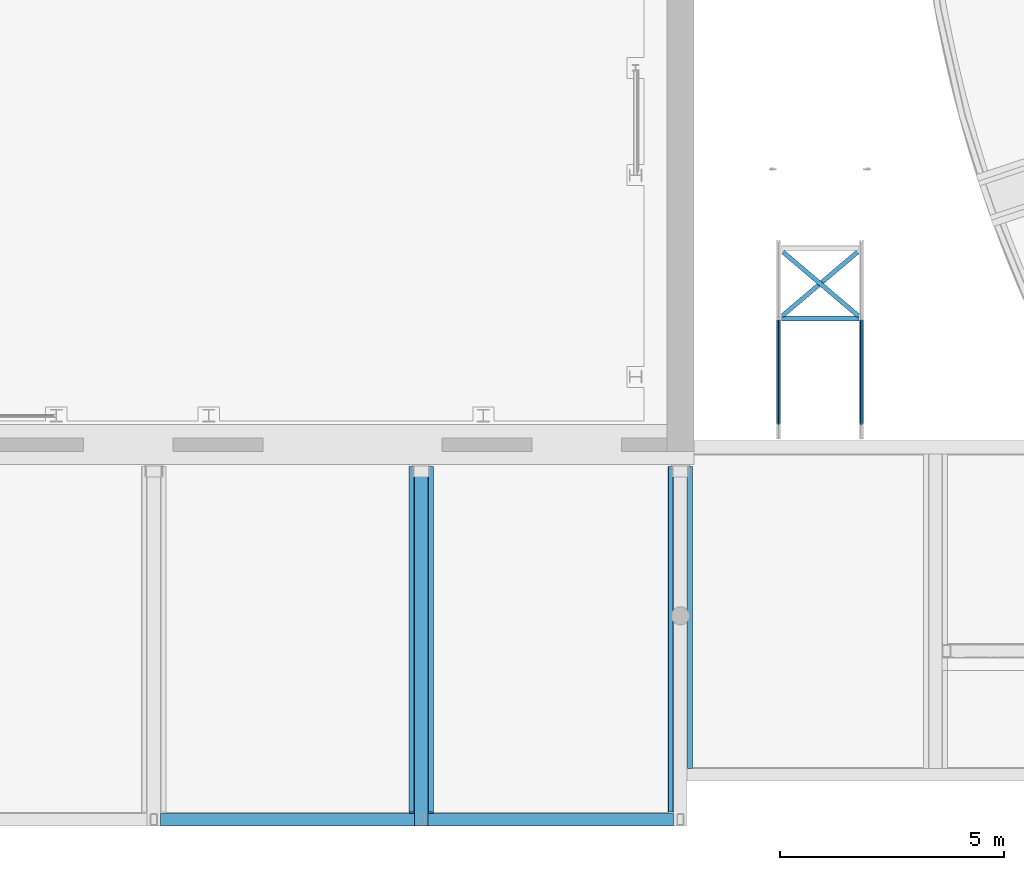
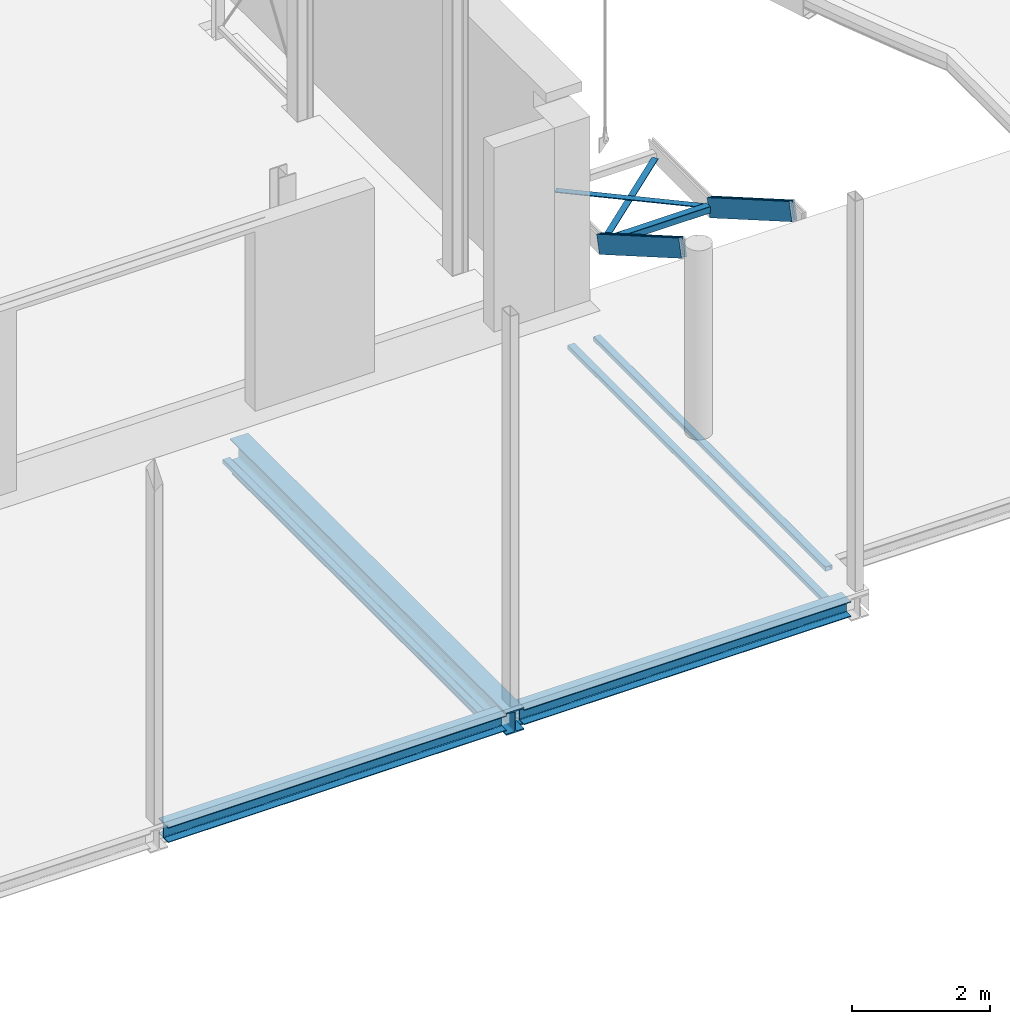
# One storey, part 12 of 37: 12 beams.
"""IFC2X3 building model written with IfcOpenShell, lengths in millimetres."""

from ifc_helpers import new_model, entity, si_unit, converted_unit, derived_unit, direction, frame, frame_2d, origin, place, context, subcontext, project, spatial, polyline, circle_curve, parameter, trimmed, segment, composite_curve, rectangle, i_section, outline, extrude, clip, halfspace, source, transform, mapped, material, material_list, type_object, type_shapes, element, save


model = new_model("IFC2X3")

# Units and contexts
model_context = context("Model", 3, precision=0.01, world=origin(), true_north=direction((6.12303176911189e-17, 1.0)))
body_context = subcontext(model_context, "Body", "Model", "MODEL_VIEW")
ifc_project = project(units=[si_unit("LENGTHUNIT", "METRE", prefix="MILLI"), si_unit("AREAUNIT", "SQUARE_METRE", prefix="MILLI"), si_unit("VOLUMEUNIT", "CUBIC_METRE"), converted_unit("PLANEANGLEUNIT", "DEGREE", entity("IfcRatioMeasure", 0.0174532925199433), si_unit("PLANEANGLEUNIT", "RADIAN"), dimensions=[0, 0, 0, 0, 0, 0, 0]), si_unit("MASSUNIT", "GRAM", prefix="KILO"), derived_unit("MASSDENSITYUNIT", [(si_unit("MASSUNIT", "GRAM", prefix="KILO"), 1), (si_unit("LENGTHUNIT", "METRE"), -3)]), derived_unit("MOMENTOFINERTIAUNIT", [(si_unit("LENGTHUNIT", "METRE"), 4)]), si_unit("TIMEUNIT", "SECOND"), si_unit("FREQUENCYUNIT", "HERTZ"), si_unit("THERMODYNAMICTEMPERATUREUNIT", "DEGREE_CELSIUS"), derived_unit("THERMALTRANSMITTANCEUNIT", [(si_unit("MASSUNIT", "GRAM", prefix="KILO"), 1), (si_unit("THERMODYNAMICTEMPERATUREUNIT", "KELVIN"), -1), (si_unit("TIMEUNIT", "SECOND"), -3)]), derived_unit("VOLUMETRICFLOWRATEUNIT", [(si_unit("LENGTHUNIT", "METRE"), 3), (si_unit("TIMEUNIT", "SECOND"), -1)]), si_unit("ELECTRICCURRENTUNIT", "AMPERE"), si_unit("ELECTRICVOLTAGEUNIT", "VOLT"), si_unit("POWERUNIT", "WATT"), si_unit("FORCEUNIT", "NEWTON", prefix="KILO"), si_unit("ILLUMINANCEUNIT", "LUX"), si_unit("LUMINOUSFLUXUNIT", "LUMEN"), si_unit("LUMINOUSINTENSITYUNIT", "CANDELA"), derived_unit("USERDEFINED", [(si_unit("MASSUNIT", "GRAM", prefix="KILO"), -1), (si_unit("LENGTHUNIT", "METRE"), -2), (si_unit("TIMEUNIT", "SECOND"), 3), (si_unit("LUMINOUSFLUXUNIT", "LUMEN"), 1)]), derived_unit("LINEARVELOCITYUNIT", [(si_unit("LENGTHUNIT", "METRE"), 1), (si_unit("TIMEUNIT", "SECOND"), -1)]), si_unit("PRESSUREUNIT", "PASCAL"), derived_unit("USERDEFINED", [(si_unit("LENGTHUNIT", "METRE"), -2), (si_unit("MASSUNIT", "GRAM", prefix="KILO"), 1), (si_unit("TIMEUNIT", "SECOND"), -2)]), derived_unit("LINEARFORCEUNIT", [(si_unit("MASSUNIT", "GRAM", prefix="KILO"), 1), (si_unit("LENGTHUNIT", "METRE"), 1), (si_unit("TIMEUNIT", "SECOND"), -2), (si_unit("LENGTHUNIT", "METRE"), -1)]), derived_unit("PLANARFORCEUNIT", [(si_unit("MASSUNIT", "GRAM", prefix="KILO"), 1), (si_unit("LENGTHUNIT", "METRE"), 1), (si_unit("TIMEUNIT", "SECOND"), -2), (si_unit("LENGTHUNIT", "METRE"), -2)])], contexts=[model_context])

# Site, building, storey
site_placement = place(None, origin())
site = spatial("IfcSite", under=ifc_project, at=site_placement, Name="Theater aan de Parade", CompositionType="ELEMENT")
building_placement = place(site_placement, origin())
building = spatial("IfcBuilding", under=site, at=building_placement, Name="Theater aan de Parade", CompositionType="ELEMENT")
storey_placement = place(building_placement, frame((0.0, 0.0, 5020.0)))
storey = spatial("IfcBuildingStorey", under=building, at=storey_placement, Name="01 eerste verdieping", CompositionType="ELEMENT", Elevation=5020.0)

# Beams
ifc_material_1 = material(Name="00_PBT_MAT_staal_S355")
ifc_material_2 = material(Name="00_PBT_MAT_Lucht")
ifc_material_list = material_list([ifc_material_2, ifc_material_1])
beam_type_1 = type_object("IfcBeamType", Name="28_PBT_SF_staal_H-profiel_met_onderplaat (void):S355_HE400B + onderplaat d=25", PredefinedType="BEAM", material=ifc_material_list)
shared_shape_1 = source(origin(), body_context, "Body", "SweptSolid", [
    extrude(i_section(OverallWidth=300.000000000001, OverallDepth=400.0, WebThickness=13.5000000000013, FlangeThickness=24.0, FilletRadius=26.9999999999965, at=frame_2d((2.1600499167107e-12, 0.0), x_axis=(1.0, 0.0))), frame((31375.0, 9057.0, 4675.0), z_axis=(0.0, 1.0, 0.0), x_axis=(-1.0, 0.0, 0.0)), (0.0, 0.0, 1.0), 8014.30844689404),
    extrude(rectangle(XDim=24.9999999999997, YDim=539.999999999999, at=frame_2d((0.0, 0.0), x_axis=(0.0, 1.0))), frame((31375.0, 9207.0, 4462.5), z_axis=(0.0, 1.0, 0.0), x_axis=(-1.0, 0.0, 0.0)), (0.0, 0.0, 1.0), 7604.30844689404),
])
type_shapes(beam_type_1, [shared_shape_1])
beam_1_placement = place(storey_placement, frame((0.0, 0.0, -5020.0)))
element("IfcBeam", 1, at=beam_1_placement, inside=storey, type_object=beam_type_1, material=ifc_material_1, Name="28_PBT_SF_staal_H-profiel_met_onderplaat (void):S355_HE400B + onderplaat d=25", ObjectType="28_PBT_SF_staal_H-profiel_met_onderplaat (void):S355_HE400B + onderplaat d=25", context=body_context, shape_type="MappedRepresentation", body=[
    mapped(shared_shape_1, transform((0.0, 0.0, 0.0), scale=1.0)),
])
beam_type_2 = type_object("IfcBeamType", Name="28_PBT_SF_staal_H-profiel (void):S355_HE280A", PredefinedType="NOTDEFINED")
beam_2_placement = place(storey_placement, frame((25560.0, 9197.0, 0.0)))
element("IfcBeam", 2, at=beam_2_placement, inside=storey, type_object=beam_type_2, material=ifc_material_1, Name="28_PBT_SF_staal_H-profiel (void):S355_HE280A", ObjectType="28_PBT_SF_staal_H-profiel (void):S355_HE280A", context=body_context, shape_type="SweptSolid", body=[
    extrude(i_section(OverallWidth=279.999999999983, OverallDepth=270.0, WebThickness=8.00000000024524, FlangeThickness=12.9999999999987, FilletRadius=24.0000000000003, at=frame_2d((-2.70006239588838e-13, 5.40012479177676e-13), x_axis=(0.0, 1.0))), frame((0.0, 0.0, -325.0), z_axis=(1.0, 0.0, 0.0), x_axis=(0.0, 0.0, -1.0)), (0.0, 0.0, 1.0), 5665.00000000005),
])
beam_3_placement = place(storey_placement, frame((37003.8581300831, 9197.0, 0.0), z_axis=(0.0, 0.0, 1.0), x_axis=(-1.0, 0.0, 0.0)))
element("IfcBeam", 3, at=beam_3_placement, inside=storey, type_object=beam_type_2, material=ifc_material_1, Name="28_PBT_SF_staal_H-profiel (void):S355_HE280A", ObjectType="28_PBT_SF_staal_H-profiel (void):S355_HE280A", context=body_context, shape_type="SweptSolid", body=[
    extrude(outline(composite_curve([segment(polyline([(122.0, -140.0), (135.0, -140.0)]), True, "CONTINUOUS"), segment(polyline([(135.0, -140.0), (135.0, 140.0)]), True, "CONTINUOUS"), segment(polyline([(135.0, 140.0), (122.0, 140.0)]), True, "CONTINUOUS"), segment(polyline([(122.0, 140.0), (122.0, 28.0)]), True, "CONTINUOUS"), segment(trimmed(circle_curve(frame_2d((98.0, 28.0), x_axis=(1.0, 0.0)), 23.9999999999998), [parameter(270.0)], [parameter(0.0)], True, "PARAMETER"), False, "CONTINUOUS"), segment(polyline([(98.0, 4.0), (-98.0, 4.0)]), True, "CONTINUOUS"), segment(trimmed(circle_curve(frame_2d((-98.0, 28.0), x_axis=(0.0, -1.0)), 24.0000000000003), [parameter(270.000000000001)], [parameter(0.0)], True, "PARAMETER"), False, "CONTINUOUS"), segment(polyline([(-122.0, 28.0), (-122.0, 140.0)]), True, "CONTINUOUS"), segment(polyline([(-122.0, 140.0), (-135.0, 140.0)]), True, "CONTINUOUS"), segment(polyline([(-135.0, 140.0), (-135.0, -140.0)]), True, "CONTINUOUS"), segment(polyline([(-135.0, -140.0), (-122.0, -140.0)]), True, "CONTINUOUS"), segment(polyline([(-122.0, -140.0), (-122.0, -28.0)]), True, "CONTINUOUS"), segment(trimmed(circle_curve(frame_2d((-98.0, -28.0), x_axis=(-1.0, 0.0)), 23.9999999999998), [parameter(269.999999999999)], [parameter(0.0)], True, "PARAMETER"), False, "CONTINUOUS"), segment(polyline([(-98.0, -4.0), (98.0, -4.0)]), True, "CONTINUOUS"), segment(trimmed(circle_curve(frame_2d((98.0, -28.0), x_axis=(0.0, 1.0)), 24.0000000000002), [parameter(270.000000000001)], [parameter(0.0)], True, "PARAMETER"), False, "CONTINUOUS"), segment(polyline([(122.0, -28.0), (122.0, -140.0)]), True, "CONTINUOUS")], self_intersect=False)), frame((0.0, 0.0, -325.0), z_axis=(1.0, 0.0, 0.0), x_axis=(0.0, 0.0, -1.0)), (0.0, 0.0, 1.0), 5478.85813008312),
])
ifc_material_3 = material(Name="00_PBT_MAT_staal_S235")
beam_type_3 = type_object("IfcBeamType", Name="28_PBT_SF_staal_koker:S235_K80x120x6.3", PredefinedType="NOTDEFINED")
beam_4_placement = place(storey_placement, frame((31100.0, 17071.3084468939, 0.0), z_axis=(0.0, 0.0, 1.0), x_axis=(0.0, -1.0, 0.0)))
element("IfcBeam", 4, at=beam_4_placement, inside=storey, type_object=beam_type_3, material=ifc_material_3, Name="28_PBT_SF_staal_koker:S235_K80x120x6.3", ObjectType="28_PBT_SF_staal_koker:S235_K80x120x6.3", context=body_context, shape_type="SweptSolid", body=[
    extrude(outline(composite_curve([segment(polyline([(-30.5500000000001, -60.0), (30.5499999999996, -60.0)]), True, "CONTINUOUS"), segment(trimmed(circle_curve(frame_2d((30.5499999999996, -50.5499999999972), x_axis=(0.0, 1.0)), 9.45), [parameter(180.0)], [parameter(270.0)], True, "PARAMETER"), True, "CONTINUOUS"), segment(polyline([(40.0, -50.5500000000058), (40.0, 50.5499999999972)]), True, "CONTINUOUS"), segment(trimmed(circle_curve(frame_2d((30.5499999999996, 50.5500000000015), x_axis=(0.0, 1.0)), 9.45), [parameter(270.0)], [parameter(360.0)], True, "PARAMETER"), True, "CONTINUOUS"), segment(polyline([(30.5499999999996, 60.0), (-30.5500000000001, 60.0)]), True, "CONTINUOUS"), segment(trimmed(circle_curve(frame_2d((-30.5500000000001, 50.5500000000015), x_axis=(0.0, 1.0)), 9.45), [parameter(0.0)], [parameter(90.0000000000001)], True, "PARAMETER"), True, "CONTINUOUS"), segment(polyline([(-40.0, 50.5499999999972), (-40.0, -50.5500000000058)]), True, "CONTINUOUS"), segment(trimmed(circle_curve(frame_2d((-30.5500000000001, -50.5499999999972), x_axis=(0.0, 1.0)), 9.45), [parameter(90.0)], [parameter(180.0)], True, "PARAMETER"), True, "CONTINUOUS")], self_intersect=False), holes=[composite_curve([segment(polyline([(33.6999999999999, 47.3999999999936), (33.6999999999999, -47.4000000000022)]), True, "CONTINUOUS"), segment(trimmed(circle_curve(frame_2d((27.3999999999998, -47.3999999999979), x_axis=(0.0, 1.0)), 6.3), [parameter(180.0)], [parameter(270.0)], True, "PARAMETER"), False, "CONTINUOUS"), segment(polyline([(27.3999999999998, -53.7000000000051), (-27.4000000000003, -53.7000000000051)]), True, "CONTINUOUS"), segment(trimmed(circle_curve(frame_2d((-27.4000000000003, -47.3999999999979), x_axis=(0.0, 1.0)), 6.3), [parameter(90.0)], [parameter(180.0)], True, "PARAMETER"), False, "CONTINUOUS"), segment(polyline([(-33.7000000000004, -47.4000000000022), (-33.7000000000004, 47.3999999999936)]), True, "CONTINUOUS"), segment(trimmed(circle_curve(frame_2d((-27.4000000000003, 47.4000000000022), x_axis=(0.0, 1.0)), 6.3), [parameter(4.07110999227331e-13)], [parameter(90.0000000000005)], True, "PARAMETER"), False, "CONTINUOUS"), segment(polyline([(-27.4000000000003, 53.6999999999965), (27.3999999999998, 53.6999999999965)]), True, "CONTINUOUS"), segment(trimmed(circle_curve(frame_2d((27.3999999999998, 47.4000000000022), x_axis=(0.0, 1.0)), 6.3), [parameter(270.0)], [parameter(360.0)], True, "PARAMETER"), False, "CONTINUOUS")], self_intersect=False)]), frame((0.0, 60.0, -505.0), z_axis=(1.0, 0.0, 0.0), x_axis=(0.0, 0.0, 1.0)), (0.0, 0.0, 1.0), 7711.30844689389),
])
beam_5_placement = place(storey_placement, frame((31650.0, 17071.3084468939, 0.0), z_axis=(0.0, 0.0, 1.0), x_axis=(0.0, -1.0, 0.0)))
element("IfcBeam", 5, at=beam_5_placement, inside=storey, type_object=beam_type_3, material=ifc_material_3, Name="28_PBT_SF_staal_koker:S235_K80x120x6.3", ObjectType="28_PBT_SF_staal_koker:S235_K80x120x6.3", context=body_context, shape_type="SweptSolid", body=[
    extrude(outline(composite_curve([segment(trimmed(circle_curve(frame_2d((-50.5499999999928, -30.5500000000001), x_axis=(1.0, 0.0)), 9.45), [parameter(180.0)], [parameter(270.0)], True, "PARAMETER"), True, "CONTINUOUS"), segment(polyline([(-50.5499999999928, -40.0), (50.5500000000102, -40.0)]), True, "CONTINUOUS"), segment(trimmed(circle_curve(frame_2d((50.5500000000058, -30.5500000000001), x_axis=(1.0, 0.0)), 9.45), [parameter(270.0)], [parameter(0.0)], True, "PARAMETER"), True, "CONTINUOUS"), segment(polyline([(60.0, -30.5500000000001), (60.0, 30.5499999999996)]), True, "CONTINUOUS"), segment(trimmed(circle_curve(frame_2d((50.5500000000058, 30.5499999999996), x_axis=(1.0, 0.0)), 9.45), [parameter(3.56222124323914e-13)], [parameter(90.0000000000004)], True, "PARAMETER"), True, "CONTINUOUS"), segment(polyline([(50.5500000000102, 40.0), (-50.5499999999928, 40.0)]), True, "CONTINUOUS"), segment(trimmed(circle_curve(frame_2d((-50.5499999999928, 30.5499999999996), x_axis=(1.0, 0.0)), 9.45), [parameter(90.0000000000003)], [parameter(180.0)], True, "PARAMETER"), True, "CONTINUOUS"), segment(polyline([(-60.0, 30.5499999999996), (-60.0, -30.5500000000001)]), True, "CONTINUOUS")], self_intersect=False), holes=[composite_curve([segment(trimmed(circle_curve(frame_2d((47.4000000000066, 27.3999999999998), x_axis=(1.0, 0.0)), 6.3), [parameter(5.08888749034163e-14)], [parameter(90.0000000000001)], True, "PARAMETER"), False, "CONTINUOUS"), segment(polyline([(53.7000000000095, 27.3999999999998), (53.7000000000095, -27.4000000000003)]), True, "CONTINUOUS"), segment(trimmed(circle_curve(frame_2d((47.4000000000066, -27.4000000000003), x_axis=(1.0, 0.0)), 6.3), [parameter(269.999999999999)], [parameter(360.0)], True, "PARAMETER"), False, "CONTINUOUS"), segment(polyline([(47.4000000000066, -33.7000000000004), (-47.3999999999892, -33.7000000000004)]), True, "CONTINUOUS"), segment(trimmed(circle_curve(frame_2d((-47.3999999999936, -27.4000000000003), x_axis=(1.0, 0.0)), 6.3), [parameter(180.0)], [parameter(270.0)], True, "PARAMETER"), False, "CONTINUOUS"), segment(polyline([(-53.6999999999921, -27.4000000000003), (-53.6999999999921, 27.3999999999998)]), True, "CONTINUOUS"), segment(trimmed(circle_curve(frame_2d((-47.3999999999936, 27.3999999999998), x_axis=(1.0, 0.0)), 6.3), [parameter(89.9999999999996)], [parameter(180.0)], True, "PARAMETER"), False, "CONTINUOUS"), segment(polyline([(-47.3999999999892, 33.6999999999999), (47.4000000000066, 33.6999999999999)]), True, "CONTINUOUS")], self_intersect=False)]), frame((0.0, -60.0, -505.0), z_axis=(1.0, 0.0, 0.0), x_axis=(0.0, 1.0, 0.0)), (0.0, 0.0, 1.0), 7711.30844689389),
])
beam_6_placement = place(storey_placement, frame((36878.8581300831, 17071.3084468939, 0.0), z_axis=(0.0, 0.0, 1.0), x_axis=(0.0, -1.0, 0.0)))
element("IfcBeam", 6, at=beam_6_placement, inside=storey, type_object=beam_type_3, material=ifc_material_3, Name="28_PBT_SF_staal_koker:S235_K80x120x6.3", ObjectType="28_PBT_SF_staal_koker:S235_K80x120x6.3", context=body_context, shape_type="SweptSolid", body=[
    extrude(outline(composite_curve([segment(polyline([(-30.5500000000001, -60.0), (30.5499999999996, -60.0)]), True, "CONTINUOUS"), segment(trimmed(circle_curve(frame_2d((30.5499999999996, -50.5500000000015), x_axis=(0.0, 1.0)), 9.45), [parameter(180.0)], [parameter(270.0)], True, "PARAMETER"), True, "CONTINUOUS"), segment(polyline([(40.0, -50.5500000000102), (40.0, 50.5499999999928)]), True, "CONTINUOUS"), segment(trimmed(circle_curve(frame_2d((30.5499999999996, 50.5499999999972), x_axis=(0.0, 1.0)), 9.45), [parameter(270.0)], [parameter(360.0)], True, "PARAMETER"), True, "CONTINUOUS"), segment(polyline([(30.5499999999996, 60.0), (-30.5500000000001, 60.0)]), True, "CONTINUOUS"), segment(trimmed(circle_curve(frame_2d((-30.5500000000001, 50.5499999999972), x_axis=(0.0, 1.0)), 9.45), [parameter(0.0)], [parameter(90.0000000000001)], True, "PARAMETER"), True, "CONTINUOUS"), segment(polyline([(-40.0, 50.5499999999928), (-40.0, -50.5500000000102)]), True, "CONTINUOUS"), segment(trimmed(circle_curve(frame_2d((-30.5500000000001, -50.5500000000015), x_axis=(0.0, 1.0)), 9.45), [parameter(90.0)], [parameter(180.0)], True, "PARAMETER"), True, "CONTINUOUS")], self_intersect=False), holes=[composite_curve([segment(polyline([(33.6999999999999, 47.3999999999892), (33.6999999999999, -47.4000000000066)]), True, "CONTINUOUS"), segment(trimmed(circle_curve(frame_2d((27.3999999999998, -47.4000000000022), x_axis=(0.0, 1.0)), 6.3), [parameter(180.0)], [parameter(270.0)], True, "PARAMETER"), False, "CONTINUOUS"), segment(polyline([(27.3999999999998, -53.7000000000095), (-27.4000000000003, -53.7000000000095)]), True, "CONTINUOUS"), segment(trimmed(circle_curve(frame_2d((-27.4000000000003, -47.4000000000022), x_axis=(0.0, 1.0)), 6.3), [parameter(90.0)], [parameter(180.0)], True, "PARAMETER"), False, "CONTINUOUS"), segment(polyline([(-33.7000000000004, -47.4000000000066), (-33.7000000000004, 47.3999999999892)]), True, "CONTINUOUS"), segment(trimmed(circle_curve(frame_2d((-27.4000000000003, 47.3999999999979), x_axis=(0.0, 1.0)), 6.3), [parameter(4.07110999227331e-13)], [parameter(90.0000000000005)], True, "PARAMETER"), False, "CONTINUOUS"), segment(polyline([(-27.4000000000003, 53.6999999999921), (27.3999999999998, 53.6999999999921)]), True, "CONTINUOUS"), segment(trimmed(circle_curve(frame_2d((27.3999999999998, 47.3999999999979), x_axis=(0.0, 1.0)), 6.3), [parameter(270.0)], [parameter(360.0)], True, "PARAMETER"), False, "CONTINUOUS")], self_intersect=False)]), frame((0.0, 60.0, -505.0), z_axis=(1.0, 0.0, 0.0), x_axis=(0.0, 0.0, 1.0)), (0.0, 0.0, 1.0), 7711.30844689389),
])
beam_7_placement = place(storey_placement, frame((37428.8581300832, 17071.3084468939, 0.0), z_axis=(0.0, 0.0, 1.0), x_axis=(0.0, -1.0, 0.0)))
element("IfcBeam", 7, at=beam_7_placement, inside=storey, type_object=beam_type_3, material=ifc_material_3, Name="28_PBT_SF_staal_koker:S235_K80x120x6.3", ObjectType="28_PBT_SF_staal_koker:S235_K80x120x6.3", context=body_context, shape_type="SweptSolid", body=[
    extrude(outline(composite_curve([segment(trimmed(circle_curve(frame_2d((-50.5499999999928, -30.5500000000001), x_axis=(1.0, 0.0)), 9.45), [parameter(180.0)], [parameter(270.0)], True, "PARAMETER"), True, "CONTINUOUS"), segment(polyline([(-50.5499999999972, -40.0), (50.5500000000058, -40.0)]), True, "CONTINUOUS"), segment(trimmed(circle_curve(frame_2d((50.5500000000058, -30.5500000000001), x_axis=(1.0, 0.0)), 9.45), [parameter(270.0)], [parameter(0.0)], True, "PARAMETER"), True, "CONTINUOUS"), segment(polyline([(60.0, -30.5500000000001), (60.0, 30.5499999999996)]), True, "CONTINUOUS"), segment(trimmed(circle_curve(frame_2d((50.5500000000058, 30.5499999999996), x_axis=(1.0, 0.0)), 9.45), [parameter(3.56222124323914e-13)], [parameter(90.0000000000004)], True, "PARAMETER"), True, "CONTINUOUS"), segment(polyline([(50.5500000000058, 40.0), (-50.5499999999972, 40.0)]), True, "CONTINUOUS"), segment(trimmed(circle_curve(frame_2d((-50.5499999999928, 30.5499999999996), x_axis=(1.0, 0.0)), 9.45), [parameter(90.0000000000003)], [parameter(180.0)], True, "PARAMETER"), True, "CONTINUOUS"), segment(polyline([(-60.0, 30.5499999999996), (-60.0, -30.5500000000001)]), True, "CONTINUOUS")], self_intersect=False), holes=[composite_curve([segment(trimmed(circle_curve(frame_2d((47.4000000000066, 27.3999999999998), x_axis=(1.0, 0.0)), 6.3), [parameter(5.08888749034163e-14)], [parameter(90.0000000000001)], True, "PARAMETER"), False, "CONTINUOUS"), segment(polyline([(53.7000000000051, 27.3999999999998), (53.7000000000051, -27.4000000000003)]), True, "CONTINUOUS"), segment(trimmed(circle_curve(frame_2d((47.4000000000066, -27.4000000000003), x_axis=(1.0, 0.0)), 6.3), [parameter(269.999999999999)], [parameter(360.0)], True, "PARAMETER"), False, "CONTINUOUS"), segment(polyline([(47.4000000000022, -33.7000000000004), (-47.3999999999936, -33.7000000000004)]), True, "CONTINUOUS"), segment(trimmed(circle_curve(frame_2d((-47.3999999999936, -27.4000000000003), x_axis=(1.0, 0.0)), 6.3), [parameter(180.0)], [parameter(270.0)], True, "PARAMETER"), False, "CONTINUOUS"), segment(polyline([(-53.6999999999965, -27.4000000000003), (-53.6999999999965, 27.3999999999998)]), True, "CONTINUOUS"), segment(trimmed(circle_curve(frame_2d((-47.3999999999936, 27.3999999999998), x_axis=(1.0, 0.0)), 6.3), [parameter(89.9999999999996)], [parameter(180.0)], True, "PARAMETER"), False, "CONTINUOUS"), segment(polyline([(-47.3999999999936, 33.6999999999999), (47.4000000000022, 33.6999999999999)]), True, "CONTINUOUS")], self_intersect=False)]), frame((0.0, -60.0, -505.0), z_axis=(1.0, 0.0, 0.0), x_axis=(0.0, 1.0, 0.0)), (0.0, 0.0, 1.0), 6734.30844689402),
])
beam_type_4 = type_object("IfcBeamType", Name="28_PBT_SF_staal_trapboom_glas:trapboom", PredefinedType="BEAM", material=ifc_material_1)
shared_shape_2 = source(origin(), body_context, "Body", "Clipping", [
    clip(clip(extrude(rectangle(XDim=20.0000000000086, YDim=30.0000000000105, at=frame_2d((-3.19211324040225e-12, 8.66329230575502e-12), x_axis=(1.0, 0.0))), frame((41191.8281932, 20344.8666221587, 3363.66152684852), z_axis=(0.0, -0.866152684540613, 0.499779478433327), x_axis=(0.0, -0.499779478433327, -0.866152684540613)), (0.0, 0.0, 1.0), 2756.56965873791), halfspace(frame((39781.7063235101, 21680.2102783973, 8359.77091390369), z_axis=(0.0, 0.965958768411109, -0.258696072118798), x_axis=(0.0, 0.258696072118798, 0.965958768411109)), False)), halfspace(frame((46565.4133776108, 17919.4041672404, 4590.0), z_axis=(0.0, -0.965958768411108, 0.258696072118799), x_axis=(-1.0, 0.0, 0.0)), False)),
    clip(clip(extrude(rectangle(XDim=310.000000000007, YDim=29.9999999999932, at=frame_2d((-1.79056769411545e-12, 1.29940502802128e-11), x_axis=(1.0, 0.0))), frame((41221.8281932, 20411.9783915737, 3469.25366610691), z_axis=(0.0, -0.866152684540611, 0.499779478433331), x_axis=(0.0, -0.499779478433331, -0.866152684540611)), (0.0, 0.0, 1.0), 2834.23535562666), halfspace(frame((39781.7063235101, 21680.2102783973, 8359.77091390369), z_axis=(0.0, 0.965958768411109, -0.258696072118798), x_axis=(0.0, 0.258696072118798, 0.965958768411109)), False)), halfspace(frame((46565.4133776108, 17919.4041672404, 4590.0), z_axis=(0.0, -0.965958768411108, 0.258696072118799), x_axis=(-1.0, 0.0, 0.0)), False)),
    clip(clip(extrude(rectangle(XDim=20.0000000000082, YDim=30.0000000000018, at=frame_2d((-3.89555054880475e-12, 8.66329230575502e-12), x_axis=(1.0, 0.0))), frame((41191.8281932, 20385.0385343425, 3513.66152684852), z_axis=(0.0, -0.866152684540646, 0.49977947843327), x_axis=(0.0, -0.49977947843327, -0.866152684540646)), (0.0, 0.0, 1.0), 2756.56965873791), halfspace(frame((39781.7063235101, 21680.2102783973, 8359.77091390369), z_axis=(0.0, 0.965958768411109, -0.258696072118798), x_axis=(0.0, 0.258696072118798, 0.965958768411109)), False)), halfspace(frame((46565.4133776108, 17919.4041672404, 4590.0), z_axis=(0.0, -0.965958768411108, 0.258696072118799), x_axis=(-1.0, 0.0, 0.0)), False)),
    clip(clip(extrude(rectangle(XDim=310.000000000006, YDim=29.9999999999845, at=frame_2d((-3.43902684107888e-12, 1.29940502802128e-11), x_axis=(1.0, 0.0))), frame((41161.8281932, 20411.9783915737, 3469.25366610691), z_axis=(0.0, -0.866152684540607, 0.499779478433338), x_axis=(0.0, -0.499779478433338, -0.866152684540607)), (0.0, 0.0, 1.0), 2834.23535562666), halfspace(frame((39781.7063235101, 21680.2102783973, 8359.77091390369), z_axis=(0.0, 0.965958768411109, -0.258696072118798), x_axis=(0.0, 0.258696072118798, 0.965958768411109)), False)), halfspace(frame((46565.4133776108, 17919.4041672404, 4590.0), z_axis=(0.0, -0.965958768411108, 0.258696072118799), x_axis=(-1.0, 0.0, 0.0)), False)),
])
type_shapes(beam_type_4, [shared_shape_2])
beam_8_placement = place(storey_placement, frame((0.0, 0.0, -5020.0)))
element("IfcBeam", 8, at=beam_8_placement, inside=storey, type_object=beam_type_4, material=ifc_material_1, Name="28_PBT_SF_staal_trapboom_glas:trapboom", ObjectType="28_PBT_SF_staal_trapboom_glas:trapboom", context=body_context, shape_type="MappedRepresentation", body=[
    mapped(shared_shape_2, transform((0.0, 0.0, 0.0), scale=1.0)),
])
beam_type_5 = type_object("IfcBeamType", Name="28_PBT_SF_staal_trapboom_glas:trapboom", PredefinedType="BEAM", material=ifc_material_1)
shared_shape_3 = source(origin(), body_context, "Body", "Clipping", [
    clip(clip(extrude(rectangle(XDim=20.0000000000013, YDim=30.0000000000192, at=frame_2d((-1.55164769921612e-12, 4.33164615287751e-12), x_axis=(1.0, 0.0))), frame((39341.8281931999, 20344.8666221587, 3363.66152684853), z_axis=(0.0, -0.866152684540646, 0.49977947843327), x_axis=(0.0, -0.49977947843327, -0.866152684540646)), (0.0, 0.0, 1.0), 2756.5696587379), halfspace(frame((44715.4133776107, 20856.9842329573, 5285.88420791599), z_axis=(0.0, 0.965958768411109, -0.258696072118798), x_axis=(-1.0, 0.0, 0.0)), False)), halfspace(frame((44715.4133776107, 17938.0656071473, 4659.68092465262), z_axis=(0.0, -0.965958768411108, 0.258696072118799), x_axis=(-1.0, 0.0, 0.0)), False)),
    clip(clip(extrude(rectangle(XDim=310.0, YDim=30.0000000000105, at=frame_2d((-2.01794136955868e-12, 0.0), x_axis=(1.0, 0.0))), frame((39311.8281931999, 20411.9783915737, 3469.25366610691), z_axis=(0.0, -0.86615268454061, 0.499779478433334), x_axis=(0.0, -0.499779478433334, -0.86615268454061)), (0.0, 0.0, 1.0), 2834.23535562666), halfspace(frame((44715.4133776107, 20856.9842329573, 5285.88420791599), z_axis=(0.0, 0.965958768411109, -0.258696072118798), x_axis=(-1.0, 0.0, 0.0)), False)), halfspace(frame((44715.4133776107, 17938.0656071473, 4659.68092465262), z_axis=(0.0, -0.965958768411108, 0.258696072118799), x_axis=(-1.0, 0.0, 0.0)), False)),
    clip(clip(extrude(rectangle(XDim=19.9999999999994, YDim=30.0000000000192, at=frame_2d((-1.55253587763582e-12, 4.33164615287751e-12), x_axis=(1.0, 0.0))), frame((39341.8281931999, 20385.0385343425, 3513.66152684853), z_axis=(0.0, -0.866152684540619, 0.499779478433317), x_axis=(0.0, -0.499779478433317, -0.866152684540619)), (0.0, 0.0, 1.0), 2756.5696587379), halfspace(frame((44715.4133776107, 20856.9842329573, 5285.88420791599), z_axis=(0.0, 0.965958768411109, -0.258696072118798), x_axis=(-1.0, 0.0, 0.0)), False)), halfspace(frame((44715.4133776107, 17938.0656071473, 4659.68092465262), z_axis=(0.0, -0.965958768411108, 0.258696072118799), x_axis=(-1.0, 0.0, 0.0)), False)),
    clip(clip(extrude(rectangle(XDim=310.0, YDim=30.0000000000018, at=frame_2d((-2.01794136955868e-12, 4.33164615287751e-12), x_axis=(1.0, 0.0))), frame((39371.8281931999, 20411.9783915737, 3469.25366610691), z_axis=(0.0, -0.86615268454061, 0.499779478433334), x_axis=(0.0, -0.499779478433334, -0.86615268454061)), (0.0, 0.0, 1.0), 2834.23535562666), halfspace(frame((44715.4133776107, 20856.9842329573, 5285.88420791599), z_axis=(0.0, 0.965958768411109, -0.258696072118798), x_axis=(-1.0, 0.0, 0.0)), False)), halfspace(frame((44715.4133776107, 17938.0656071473, 4659.68092465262), z_axis=(0.0, -0.965958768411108, 0.258696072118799), x_axis=(-1.0, 0.0, 0.0)), False)),
])
type_shapes(beam_type_5, [shared_shape_3])
beam_9_placement = place(storey_placement, frame((0.0, 0.0, -5020.0)))
element("IfcBeam", 9, at=beam_9_placement, inside=storey, type_object=beam_type_5, material=ifc_material_1, Name="28_PBT_SF_staal_trapboom_glas:trapboom", ObjectType="28_PBT_SF_staal_trapboom_glas:trapboom", context=body_context, shape_type="MappedRepresentation", body=[
    mapped(shared_shape_3, transform((0.0, 0.0, 0.0), scale=1.0)),
])
beam_type_6 = type_object("IfcBeamType", Name="28_PBT_SF_staal_koker:S235_K120x120x6.3", PredefinedType="NOTDEFINED")
beam_10_placement = place(storey_placement, frame((41141.8281931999, 20372.4536004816, 0.0), z_axis=(0.0, 0.0, 1.0), x_axis=(-1.0, 0.0, 0.0)))
element("IfcBeam", 10, at=beam_10_placement, inside=storey, type_object=beam_type_6, material=ifc_material_3, Name="28_PBT_SF_staal_koker:S235_K120x120x6.3", ObjectType="28_PBT_SF_staal_koker:S235_K120x120x6.3", context=body_context, shape_type="SweptSolid", body=[
    extrude(outline(composite_curve([segment(polyline([(-50.55, -60.0), (50.5500000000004, -60.0)]), True, "CONTINUOUS"), segment(trimmed(circle_curve(frame_2d((50.5500000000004, -50.5500000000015), x_axis=(0.0, 1.0)), 9.45), [parameter(180.0)], [parameter(270.0)], True, "PARAMETER"), True, "CONTINUOUS"), segment(polyline([(60.0, -50.5500000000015), (60.0, 50.5500000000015)]), True, "CONTINUOUS"), segment(trimmed(circle_curve(frame_2d((50.5500000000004, 50.5499999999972), x_axis=(0.0, 1.0)), 9.45), [parameter(270.0)], [parameter(360.0)], True, "PARAMETER"), True, "CONTINUOUS"), segment(polyline([(50.5500000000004, 60.0), (-50.55, 60.0)]), True, "CONTINUOUS"), segment(trimmed(circle_curve(frame_2d((-50.55, 50.5499999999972), x_axis=(0.0, 1.0)), 9.45), [parameter(0.0)], [parameter(90.0000000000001)], True, "PARAMETER"), True, "CONTINUOUS"), segment(polyline([(-60.0, 50.5500000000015), (-60.0, -50.5500000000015)]), True, "CONTINUOUS"), segment(trimmed(circle_curve(frame_2d((-50.55, -50.5500000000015), x_axis=(0.0, 1.0)), 9.45), [parameter(90.0)], [parameter(180.0)], True, "PARAMETER"), True, "CONTINUOUS")], self_intersect=False), holes=[composite_curve([segment(polyline([(53.7000000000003, 47.3999999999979), (53.7000000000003, -47.3999999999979)]), True, "CONTINUOUS"), segment(trimmed(circle_curve(frame_2d((47.4000000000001, -47.4000000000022), x_axis=(0.0, 1.0)), 6.3), [parameter(180.0)], [parameter(270.0)], True, "PARAMETER"), False, "CONTINUOUS"), segment(polyline([(47.4000000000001, -53.7000000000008), (-47.3999999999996, -53.7000000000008)]), True, "CONTINUOUS"), segment(trimmed(circle_curve(frame_2d((-47.3999999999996, -47.4000000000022), x_axis=(0.0, 1.0)), 6.3), [parameter(90.0)], [parameter(180.0)], True, "PARAMETER"), False, "CONTINUOUS"), segment(polyline([(-53.6999999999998, -47.3999999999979), (-53.6999999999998, 47.3999999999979)]), True, "CONTINUOUS"), segment(trimmed(circle_curve(frame_2d((-47.3999999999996, 47.3999999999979), x_axis=(0.0, 1.0)), 6.3), [parameter(4.07110999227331e-13)], [parameter(90.0000000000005)], True, "PARAMETER"), False, "CONTINUOUS"), segment(polyline([(-47.3999999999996, 53.7000000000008), (47.4000000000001, 53.7000000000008)]), True, "CONTINUOUS"), segment(trimmed(circle_curve(frame_2d((47.4000000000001, 47.3999999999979), x_axis=(0.0, 1.0)), 6.3), [parameter(270.0)], [parameter(360.0)], True, "PARAMETER"), False, "CONTINUOUS")], self_intersect=False)]), frame((0.0, 0.0, -1530.0), z_axis=(1.0, 0.0, 0.0), x_axis=(0.0, 0.0, 1.0)), (0.0, 0.0, 1.0), 1735.0),
])
ifc_material_4 = material(Name="00_PBT_MAT_staal")
beam_type_7 = type_object("IfcBeamType", Name="28_PBT_SF_staal_strip:strip 100x15", PredefinedType="NOTDEFINED")
beam_11_placement = place(storey_placement, frame((39373.4347654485, 21914.0483348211, 0.0), z_axis=(0.0, 0.0, 1.0), x_axis=(0.762774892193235, -0.646664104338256, 0.0)))
element("IfcBeam", 11, at=beam_11_placement, inside=storey, type_object=beam_type_7, material=ifc_material_4, Name="28_PBT_SF_staal_strip:strip 100x15", ObjectType="28_PBT_SF_staal_strip:strip 100x15", context=body_context, shape_type="SweptSolid", body=[
    extrude(rectangle(XDim=15.0000000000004, YDim=100.000000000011, at=frame_2d((-2.70894418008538e-13, -1.65201186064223e-12), x_axis=(1.0, 0.0))), frame((88.3901343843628, 0.0, -1522.5), z_axis=(1.0, 0.0, 0.0), x_axis=(0.0, 0.0, -1.0)), (0.0, 0.0, 1.0), 2201.89651154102),
])
beam_12_placement = place(storey_placement, frame((41175.2216209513, 21914.0483348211, 0.0), z_axis=(0.0, 0.0, 1.0), x_axis=(-0.762774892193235, -0.646664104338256, 0.0)))
element("IfcBeam", 12, at=beam_12_placement, inside=storey, type_object=beam_type_7, material=ifc_material_4, Name="28_PBT_SF_staal_strip:strip 100x15", ObjectType="28_PBT_SF_staal_strip:strip 100x15", context=body_context, shape_type="SweptSolid", body=[
    extrude(rectangle(XDim=14.9999999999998, YDim=99.9999999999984, at=frame_2d((2.70894418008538e-13, -4.45510295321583e-12), x_axis=(1.0, 0.0))), frame((88.390134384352, 0.0, -1537.5), z_axis=(1.0, 0.0, 0.0), x_axis=(0.0, 0.0, -1.0)), (0.0, 0.0, 1.0), 2201.89651154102),
])

save(model, "model.ifc")
